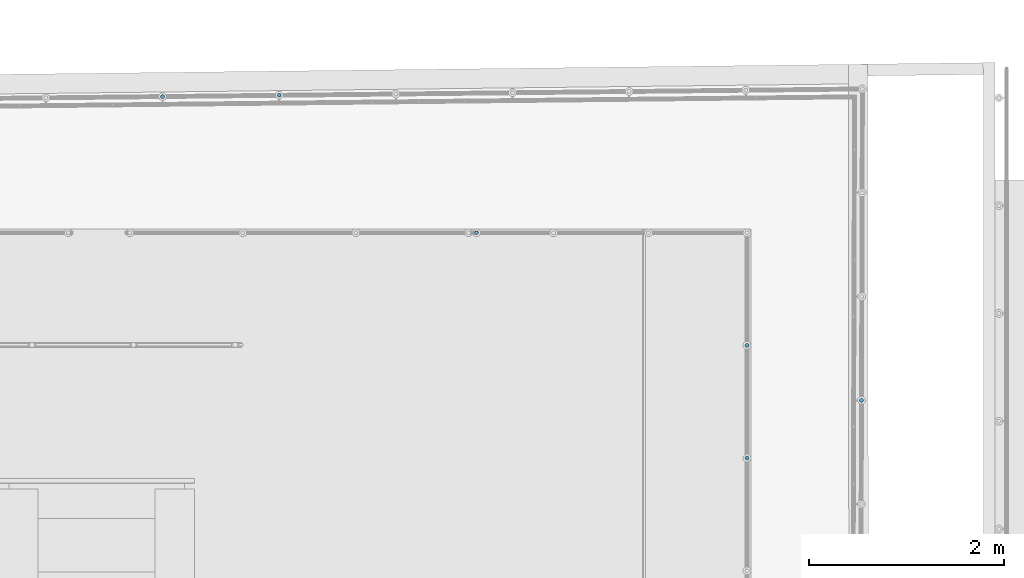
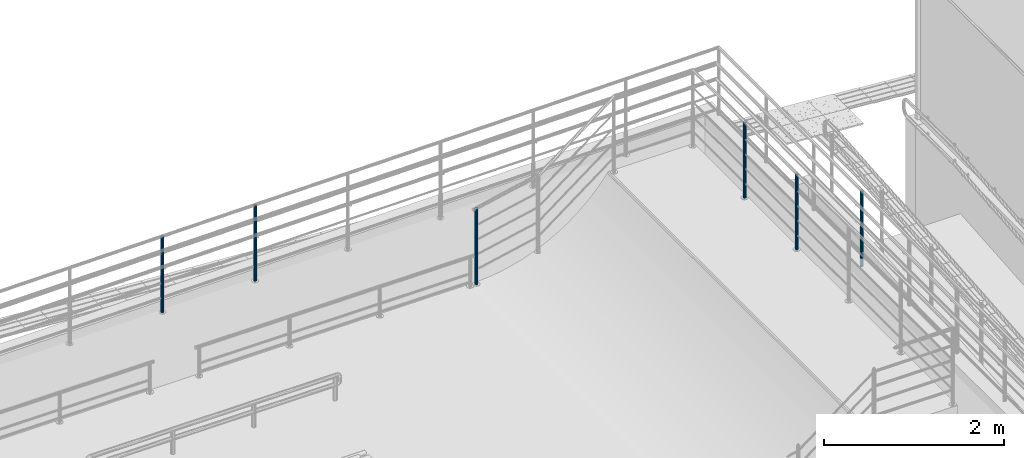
# One storey, part 51 of 237: 6 building element parts, 2 elements without a shape of their own.
"""IFC2X3 building model written with IfcOpenShell, lengths in millimetres."""

from ifc_helpers import new_model, entity, si_unit, converted_unit, derived_unit, money_unit, direction, frame, origin_with_axes, place, context, subcontext, project, spatial, faceted_brep, material, type_object, element, aggregate, save


model = new_model("IFC2X3")

# Units and contexts
model_context = context("Model", 3, precision=0.01, world=origin_with_axes(), true_north=direction((0.0, 1.0)))
body_context = subcontext(model_context, "Body", "Model", "MODEL_VIEW")
ifc_project = project(units=[si_unit("LENGTHUNIT", "METRE", prefix="MILLI"), si_unit("AREAUNIT", "SQUARE_METRE"), si_unit("VOLUMEUNIT", "CUBIC_METRE"), converted_unit("PLANEANGLEUNIT", "DEGREE", entity("IfcPlaneAngleMeasure", 0.0174532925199), si_unit("PLANEANGLEUNIT", "RADIAN"), dimensions=[0, 0, 0, 0, 0, 0, 0]), money_unit("USD"), converted_unit("TIMEUNIT", "Year", entity("IfcTimeMeasure", 31556926.0), si_unit("TIMEUNIT", "SECOND"), dimensions=[0, 0, 1, 0, 0, 0, 0]), si_unit("MASSUNIT", "GRAM", prefix="KILO"), si_unit("THERMODYNAMICTEMPERATUREUNIT", "DEGREE_CELSIUS"), si_unit("LUMINOUSINTENSITYUNIT", "LUMEN"), si_unit("ENERGYUNIT", "JOULE", prefix="MEGA"), derived_unit("THERMALCONDUCTANCEUNIT", [(si_unit("POWERUNIT", "WATT"), 1), (si_unit("LENGTHUNIT", "METRE"), -1), (si_unit("THERMODYNAMICTEMPERATUREUNIT", "KELVIN"), -1)]), derived_unit("SPECIFICHEATCAPACITYUNIT", [(si_unit("ENERGYUNIT", "JOULE"), 1), (si_unit("MASSUNIT", "GRAM", prefix="KILO"), -1), (si_unit("THERMODYNAMICTEMPERATUREUNIT", "KELVIN"), -1)]), derived_unit("MASSDENSITYUNIT", [(si_unit("MASSUNIT", "GRAM", prefix="KILO"), 1), (si_unit("VOLUMEUNIT", "CUBIC_METRE"), -1)])], contexts=[model_context])

# Site, building, storey
site_placement = place(None, origin_with_axes())
site = spatial("IfcSite", under=ifc_project, at=site_placement, Name="Local", CompositionType="ELEMENT")
building_placement = place(site_placement, origin_with_axes())
building = spatial("IfcBuilding", under=site, at=building_placement, Name="Construção", CompositionType="ELEMENT")
storey_placement = place(building_placement, origin_with_axes())
storey = spatial("IfcBuildingStorey", under=building, at=storey_placement, Name="Pavimento Térreo", CompositionType="ELEMENT", Elevation=0.0)

# Railing, building element parts
railing_type = type_object("IfcRailingType", Name="Tipo de Guarda-Corpo", PredefinedType="NOTDEFINED")
railing_1_placement = place(storey_placement, frame((70326.6870103, 28675.2458388, -1357.10819655), z_axis=(0.0, 0.0, 1.0), x_axis=(1.0, 0.0, 0.0)))
railing_1 = element("IfcRailing", 1, at=railing_1_placement, inside=storey, type_object=railing_type, Name="Guarda-Corpo - 004", PredefinedType="NOTDEFINED")
ifc_material = material(Name="Aço - Inoxidável")
building_element_part_1_placement = place(railing_1_placement, origin_with_axes())
building_element_part_1 = element("IfcBuildingElementPart", 2, at=building_element_part_1_placement, material=ifc_material, Name="Aço - Inoxidável", context=body_context, shape_type="Brep", body=[
    faceted_brep([(-4711.74185146, 3459.21272397, 5.0), (-4711.42760915, 3462.68476219, 5.0), (-4711.42760915, 3462.68476219, 1030.0), (-4711.74185146, 3459.21272397, 1030.0), (-4711.721054, 3466.15861995, 5.0), (-4712.65423283, 3455.84800143, 5.0), (-4714.13703102, 3452.69282994, 5.0), (-4716.14519195, 3449.84307779, 5.0), (-4718.61769867, 3447.38533328, 5.0), (-4721.47942531, 3445.39427371, 5.0), (-4724.64341976, 3443.93039642, 5.0), (-4728.01354565, 3443.03818059, 5.0), (-4731.48740341, 3442.74473574, 5.0), (-4734.95944162, 3443.05897805, 5.0), (-4738.32416417, 3443.97135942, 5.0), (-4741.47933566, 3445.45415761, 5.0), (-4744.3290878, 3447.46231854, 5.0), (-4746.78683232, 3449.93482526, 5.0), (-4748.77789189, 3452.7965519, 5.0), (-4750.24176917, 3455.96054635, 5.0), (-4751.133985, 3459.33067224, 5.0), (-4751.42742985, 3462.80452999, 5.0), (-4751.11318754, 3466.27656821, 5.0), (-4750.20080617, 3469.64129076, 5.0), (-4748.71800799, 3472.79646225, 5.0), (-4746.70984706, 3475.64621439, 5.0), (-4744.23734034, 3478.10395891, 5.0), (-4741.37561369, 3480.09501848, 5.0), (-4738.21161924, 3481.55889576, 5.0), (-4734.84149336, 3482.45111159, 5.0), (-4731.3676356, 3482.74455644, 5.0), (-4727.89559739, 3482.43031413, 5.0), (-4724.53087484, 3481.51793276, 5.0), (-4721.37570335, 3480.03513458, 5.0), (-4718.5259512, 3478.02697365, 5.0), (-4716.06820669, 3475.55446693, 5.0), (-4714.07714712, 3472.69274028, 5.0), (-4712.61326983, 3469.52874583, 5.0), (-4711.721054, 3466.15861995, 1030.0), (-4734.95944162, 3443.05897805, 1030.0), (-4731.48740341, 3442.74473574, 1030.0), (-4728.01354565, 3443.03818059, 1030.0), (-4724.64341976, 3443.93039642, 1030.0), (-4721.47942531, 3445.39427371, 1030.0), (-4718.61769867, 3447.38533328, 1030.0), (-4716.14519195, 3449.84307779, 1030.0), (-4714.13703102, 3452.69282994, 1030.0), (-4712.65423283, 3455.84800143, 1030.0), (-4712.61326983, 3469.52874583, 1030.0), (-4714.07714712, 3472.69274028, 1030.0), (-4716.06820669, 3475.55446693, 1030.0), (-4718.5259512, 3478.02697365, 1030.0), (-4721.37570335, 3480.03513458, 1030.0), (-4724.53087484, 3481.51793276, 1030.0), (-4727.89559739, 3482.43031413, 1030.0), (-4731.3676356, 3482.74455644, 1030.0), (-4734.84149336, 3482.45111159, 1030.0), (-4738.21161924, 3481.55889576, 1030.0), (-4741.37561369, 3480.09501848, 1030.0), (-4744.23734034, 3478.10395891, 1030.0), (-4746.70984706, 3475.64621439, 1030.0), (-4748.71800799, 3472.79646225, 1030.0), (-4750.20080617, 3469.64129076, 1030.0), (-4751.11318754, 3466.27656821, 1030.0), (-4751.42742985, 3462.80452999, 1030.0), (-4751.133985, 3459.33067224, 1030.0), (-4750.24176917, 3455.96054635, 1030.0), (-4748.77789189, 3452.7965519, 1030.0), (-4746.78683232, 3449.93482526, 1030.0), (-4744.3290878, 3447.46231854, 1030.0), (-4741.47933566, 3445.45415761, 1030.0), (-4738.32416417, 3443.97135942, 1030.0)], [[[0, 1, 2, 3]], [[4, 1, 0, 5, 6, 7, 8, 9, 10, 11, 12, 13, 14, 15, 16, 17, 18, 19, 20, 21, 22, 23, 24, 25, 26, 27, 28, 29, 30, 31, 32, 33, 34, 35, 36, 37]], [[1, 4, 38, 2]], [[39, 40, 41, 42, 43, 44, 45, 46, 47, 3, 2, 38, 48, 49, 50, 51, 52, 53, 54, 55, 56, 57, 58, 59, 60, 61, 62, 63, 64, 65, 66, 67, 68, 69, 70, 71]], [[5, 0, 3, 47]], [[6, 5, 47, 46]], [[7, 6, 46, 45]], [[8, 7, 45, 44]], [[9, 8, 44, 43]], [[10, 9, 43, 42]], [[11, 10, 42, 41]], [[12, 11, 41, 40]], [[13, 12, 40, 39]], [[14, 13, 39, 71]], [[15, 14, 71, 70]], [[16, 15, 70, 69]], [[17, 16, 69, 68]], [[18, 17, 68, 67]], [[19, 18, 67, 66]], [[20, 19, 66, 65]], [[21, 20, 65, 64]], [[22, 21, 64, 63]], [[23, 22, 63, 62]], [[24, 23, 62, 61]], [[25, 24, 61, 60]], [[26, 25, 60, 59]], [[27, 26, 59, 58]], [[28, 27, 58, 57]], [[29, 28, 57, 56]], [[30, 29, 56, 55]], [[31, 30, 55, 54]], [[32, 31, 54, 53]], [[33, 32, 53, 52]], [[34, 33, 52, 51]], [[35, 34, 51, 50]], [[36, 35, 50, 49]], [[37, 36, 49, 48]], [[4, 37, 48, 38]]]),
])
building_element_part_2_placement = place(railing_1_placement, origin_with_axes())
building_element_part_2 = element("IfcBuildingElementPart", 3, at=building_element_part_2_placement, material=ifc_material, Name="Aço - Inoxidável", context=body_context, shape_type="Brep", body=[
    faceted_brep([(-10691.8058068, 6606.76714188, 5.0), (-10695.2818695, 6607.03319678, 5.0), (-10695.2818695, 6607.03319678, 1030.0), (-10691.8058068, 6606.76714188, 1030.0), (-10698.751323, 6606.69159774, 5.0), (-10688.4287531, 6605.90151699, 5.0), (-10685.2533187, 6604.46262367, 5.0), (-10682.3759875, 6602.49418199, 5.0), (-10679.8841857, 6600.05600203, 5.0), (-10677.8536255, 6597.22216667, 5.0), (-10676.3460045, 6594.07878055, 5.0), (-10675.4071308, 6590.72135388, 5.0), (-10675.0655318, 6587.25190037, 5.0), (-10675.3315867, 6583.7758376, 5.0), (-10676.1972116, 6580.39878398, 5.0), (-10677.6361049, 6577.22334958, 5.0), (-10679.6045466, 6574.34601837, 5.0), (-10682.0427265, 6571.85421659, 5.0), (-10684.8765619, 6569.82365639, 5.0), (-10688.019948, 6568.31603531, 5.0), (-10691.3773747, 6567.37716165, 5.0), (-10694.8468282, 6567.03556261, 5.0), (-10698.3228909, 6567.30161751, 5.0), (-10701.6999446, 6568.16724241, 5.0), (-10704.875379, 6569.60613572, 5.0), (-10707.7527102, 6571.57457741, 5.0), (-10710.2445119, 6574.01275736, 5.0), (-10712.2750722, 6576.84659273, 5.0), (-10713.7826932, 6579.98997884, 5.0), (-10714.7215669, 6583.34740551, 5.0), (-10715.0631659, 6586.81685902, 5.0), (-10714.797111, 6590.29292179, 5.0), (-10713.9314861, 6593.66997541, 5.0), (-10712.4925928, 6596.84540981, 5.0), (-10710.5241511, 6599.72274102, 5.0), (-10708.0859712, 6602.2145428, 5.0), (-10705.2521358, 6604.245103, 5.0), (-10702.1087497, 6605.75272408, 5.0), (-10698.751323, 6606.69159774, 1030.0), (-10675.3315867, 6583.7758376, 1030.0), (-10675.0655318, 6587.25190037, 1030.0), (-10675.4071308, 6590.72135388, 1030.0), (-10676.3460045, 6594.07878055, 1030.0), (-10677.8536255, 6597.22216667, 1030.0), (-10679.8841857, 6600.05600203, 1030.0), (-10682.3759875, 6602.49418199, 1030.0), (-10685.2533187, 6604.46262367, 1030.0), (-10688.4287531, 6605.90151699, 1030.0), (-10702.1087497, 6605.75272408, 1030.0), (-10705.2521358, 6604.245103, 1030.0), (-10708.0859712, 6602.2145428, 1030.0), (-10710.5241511, 6599.72274102, 1030.0), (-10712.4925928, 6596.84540981, 1030.0), (-10713.9314861, 6593.66997541, 1030.0), (-10714.797111, 6590.29292179, 1030.0), (-10715.0631659, 6586.81685902, 1030.0), (-10714.7215669, 6583.34740551, 1030.0), (-10713.7826932, 6579.98997884, 1030.0), (-10712.2750722, 6576.84659273, 1030.0), (-10710.2445119, 6574.01275736, 1030.0), (-10707.7527102, 6571.57457741, 1030.0), (-10704.875379, 6569.60613572, 1030.0), (-10701.6999446, 6568.16724241, 1030.0), (-10698.3228909, 6567.30161751, 1030.0), (-10694.8468282, 6567.03556261, 1030.0), (-10691.3773747, 6567.37716165, 1030.0), (-10688.019948, 6568.31603531, 1030.0), (-10684.8765619, 6569.82365639, 1030.0), (-10682.0427265, 6571.85421659, 1030.0), (-10679.6045466, 6574.34601837, 1030.0), (-10677.6361049, 6577.22334958, 1030.0), (-10676.1972116, 6580.39878398, 1030.0)], [[[0, 1, 2, 3]], [[4, 1, 0, 5, 6, 7, 8, 9, 10, 11, 12, 13, 14, 15, 16, 17, 18, 19, 20, 21, 22, 23, 24, 25, 26, 27, 28, 29, 30, 31, 32, 33, 34, 35, 36, 37]], [[1, 4, 38, 2]], [[39, 40, 41, 42, 43, 44, 45, 46, 47, 3, 2, 38, 48, 49, 50, 51, 52, 53, 54, 55, 56, 57, 58, 59, 60, 61, 62, 63, 64, 65, 66, 67, 68, 69, 70, 71]], [[5, 0, 3, 47]], [[6, 5, 47, 46]], [[7, 6, 46, 45]], [[8, 7, 45, 44]], [[9, 8, 44, 43]], [[10, 9, 43, 42]], [[11, 10, 42, 41]], [[12, 11, 41, 40]], [[13, 12, 40, 39]], [[14, 13, 39, 71]], [[15, 14, 71, 70]], [[16, 15, 70, 69]], [[17, 16, 69, 68]], [[18, 17, 68, 67]], [[19, 18, 67, 66]], [[20, 19, 66, 65]], [[21, 20, 65, 64]], [[22, 21, 64, 63]], [[23, 22, 63, 62]], [[24, 23, 62, 61]], [[25, 24, 61, 60]], [[26, 25, 60, 59]], [[27, 26, 59, 58]], [[28, 27, 58, 57]], [[29, 28, 57, 56]], [[30, 29, 56, 55]], [[31, 30, 55, 54]], [[32, 31, 54, 53]], [[33, 32, 53, 52]], [[34, 33, 52, 51]], [[35, 34, 51, 50]], [[36, 35, 50, 49]], [[37, 36, 49, 48]], [[4, 37, 48, 38]]]),
])
building_element_part_3_placement = place(railing_1_placement, origin_with_axes())
building_element_part_3 = element("IfcBuildingElementPart", 4, at=building_element_part_3_placement, material=ifc_material, Name="Aço - Inoxidável", context=body_context, shape_type="Brep", body=[
    faceted_brep([(-11886.4430334, 6593.77345867, 5.0), (-11889.9190962, 6594.03951357, 5.0), (-11889.9190962, 6594.03951357, 1030.0), (-11886.4430334, 6593.77345867, 1030.0), (-11893.3885497, 6593.69791453, 5.0), (-11883.0659798, 6592.90783378, 5.0), (-11879.8905454, 6591.46894046, 5.0), (-11877.0132142, 6589.50049878, 5.0), (-11874.5214124, 6587.06231882, 5.0), (-11872.4908522, 6584.22848346, 5.0), (-11870.9832311, 6581.08509734, 5.0), (-11870.0443575, 6577.72767067, 5.0), (-11869.7027584, 6574.25821716, 5.0), (-11869.9688133, 6570.78215439, 5.0), (-11870.8344382, 6567.40510077, 5.0), (-11872.2733316, 6564.22966637, 5.0), (-11874.2417732, 6561.35233516, 5.0), (-11876.6799532, 6558.86053338, 5.0), (-11879.5137886, 6556.82997318, 5.0), (-11882.6571747, 6555.3223521, 5.0), (-11886.0146013, 6554.38347844, 5.0), (-11889.4840549, 6554.0418794, 5.0), (-11892.9601176, 6554.3079343, 5.0), (-11896.3371712, 6555.1735592, 5.0), (-11899.5126056, 6556.61245251, 5.0), (-11902.3899369, 6558.5808942, 5.0), (-11904.8817386, 6561.01907415, 5.0), (-11906.9122988, 6563.85290952, 5.0), (-11908.4199199, 6566.99629563, 5.0), (-11909.3587936, 6570.3537223, 5.0), (-11909.7003926, 6573.82317581, 5.0), (-11909.4343377, 6577.29923858, 5.0), (-11908.5687128, 6580.6762922, 5.0), (-11907.1298195, 6583.8517266, 5.0), (-11905.1613778, 6586.72905781, 5.0), (-11902.7231979, 6589.22085959, 5.0), (-11899.8893625, 6591.25141979, 5.0), (-11896.7459764, 6592.75904087, 5.0), (-11893.3885497, 6593.69791453, 1030.0), (-11869.9688133, 6570.78215439, 1030.0), (-11869.7027584, 6574.25821716, 1030.0), (-11870.0443575, 6577.72767067, 1030.0), (-11870.9832311, 6581.08509734, 1030.0), (-11872.4908522, 6584.22848346, 1030.0), (-11874.5214124, 6587.06231882, 1030.0), (-11877.0132142, 6589.50049878, 1030.0), (-11879.8905454, 6591.46894046, 1030.0), (-11883.0659798, 6592.90783378, 1030.0), (-11896.7459764, 6592.75904087, 1030.0), (-11899.8893625, 6591.25141979, 1030.0), (-11902.7231979, 6589.22085959, 1030.0), (-11905.1613778, 6586.72905781, 1030.0), (-11907.1298195, 6583.8517266, 1030.0), (-11908.5687128, 6580.6762922, 1030.0), (-11909.4343377, 6577.29923858, 1030.0), (-11909.7003926, 6573.82317581, 1030.0), (-11909.3587936, 6570.3537223, 1030.0), (-11908.4199199, 6566.99629563, 1030.0), (-11906.9122988, 6563.85290952, 1030.0), (-11904.8817386, 6561.01907415, 1030.0), (-11902.3899369, 6558.5808942, 1030.0), (-11899.5126056, 6556.61245251, 1030.0), (-11896.3371712, 6555.1735592, 1030.0), (-11892.9601176, 6554.3079343, 1030.0), (-11889.4840549, 6554.0418794, 1030.0), (-11886.0146013, 6554.38347844, 1030.0), (-11882.6571747, 6555.3223521, 1030.0), (-11879.5137886, 6556.82997318, 1030.0), (-11876.6799532, 6558.86053338, 1030.0), (-11874.2417732, 6561.35233516, 1030.0), (-11872.2733316, 6564.22966637, 1030.0), (-11870.8344382, 6567.40510077, 1030.0)], [[[0, 1, 2, 3]], [[4, 1, 0, 5, 6, 7, 8, 9, 10, 11, 12, 13, 14, 15, 16, 17, 18, 19, 20, 21, 22, 23, 24, 25, 26, 27, 28, 29, 30, 31, 32, 33, 34, 35, 36, 37]], [[1, 4, 38, 2]], [[39, 40, 41, 42, 43, 44, 45, 46, 47, 3, 2, 38, 48, 49, 50, 51, 52, 53, 54, 55, 56, 57, 58, 59, 60, 61, 62, 63, 64, 65, 66, 67, 68, 69, 70, 71]], [[5, 0, 3, 47]], [[6, 5, 47, 46]], [[7, 6, 46, 45]], [[8, 7, 45, 44]], [[9, 8, 44, 43]], [[10, 9, 43, 42]], [[11, 10, 42, 41]], [[12, 11, 41, 40]], [[13, 12, 40, 39]], [[14, 13, 39, 71]], [[15, 14, 71, 70]], [[16, 15, 70, 69]], [[17, 16, 69, 68]], [[18, 17, 68, 67]], [[19, 18, 67, 66]], [[20, 19, 66, 65]], [[21, 20, 65, 64]], [[22, 21, 64, 63]], [[23, 22, 63, 62]], [[24, 23, 62, 61]], [[25, 24, 61, 60]], [[26, 25, 60, 59]], [[27, 26, 59, 58]], [[28, 27, 58, 57]], [[29, 28, 57, 56]], [[30, 29, 56, 55]], [[31, 30, 55, 54]], [[32, 31, 54, 53]], [[33, 32, 53, 52]], [[34, 33, 52, 51]], [[35, 34, 51, 50]], [[36, 35, 50, 49]], [[37, 36, 49, 48]], [[4, 37, 48, 38]]]),
])
aggregate(railing_1, [building_element_part_1, building_element_part_2, building_element_part_3])

railing_2_placement = place(storey_placement, frame((61612.4440926, 28006.4497128, -1265.99547451), z_axis=(0.0, 0.0, 1.0), x_axis=(-1.0, 0.0, 0.0)))
railing_2 = element("IfcRailing", 5, at=railing_2_placement, inside=storey, type_object=railing_type, Name="Guarda-Corpo - 001", PredefinedType="NOTDEFINED")
building_element_part_4_placement = place(railing_2_placement, origin_with_axes())
building_element_part_4 = element("IfcBuildingElementPart", 6, at=building_element_part_4_placement, material=ifc_material, Name="Aço - Inoxidável", context=body_context, shape_type="Brep", body=[
    faceted_brep([(-43.4615863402, -5867.93545203, 13.4432905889), (-39.9887934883, -5868.24124182, 13.4432905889), (-39.9887934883, -5868.24124182, 1038.44329059), (-43.4615863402, -5867.93545203, 1039.1763716), (-36.5156603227, -5867.93934183, 13.4432905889), (-46.8285198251, -5867.03126372, 13.4432905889), (-49.9872913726, -5865.55615019, 13.4432905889), (-52.8419233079, -5863.55493204, 13.4432905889), (-55.3056790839, -5861.08841525, 13.4432905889), (-57.3036987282, -5858.23154369, 13.4432905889), (-58.775273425, -5855.07112197, 13.4432905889), (-59.6756901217, -5851.70317788, 13.4432905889), (-59.9775901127, -5848.23004472, 13.4432905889), (-59.6718003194, -5844.75725186, 13.4432905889), (-58.76761201, -5841.39031838, 13.4432905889), (-57.2924984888, -5838.23154683, 13.4432905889), (-55.2912803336, -5835.3769149, 13.4432905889), (-52.8247635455, -5832.91315912, 13.4432905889), (-49.9678919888, -5830.91513948, 13.4432905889), (-46.8074702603, -5829.44356478, 13.4432905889), (-43.4395261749, -5828.54314808, 13.4432905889), (-39.9663930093, -5828.24124809, 13.4432905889), (-36.4936001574, -5828.54703788, 13.4432905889), (-33.1266666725, -5829.45122619, 13.4432905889), (-29.967895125, -5830.92633971, 13.4432905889), (-27.1132631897, -5832.92755787, 13.4432905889), (-24.6495074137, -5835.39407466, 13.4432905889), (-22.6514877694, -5838.25094621, 13.4432905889), (-21.1799130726, -5841.41136794, 13.4432905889), (-20.2794963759, -5844.77931203, 13.4432905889), (-19.9775963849, -5848.25244519, 13.4432905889), (-20.2833861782, -5851.72523805, 13.4432905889), (-21.1875744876, -5855.09217153, 13.4432905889), (-22.6626880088, -5858.25094308, 13.4432905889), (-24.663906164, -5861.10557501, 13.4432905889), (-27.1304229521, -5863.56933079, 13.4432905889), (-29.9872945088, -5865.56735043, 13.4432905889), (-33.1477162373, -5867.03892513, 13.4432905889), (-36.5156603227, -5867.93934183, 1037.71020958), (-59.6718003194, -5844.75725186, 1042.60079961), (-59.9775901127, -5848.23004472, 1042.66493588), (-59.6756901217, -5851.70317788, 1042.60079961), (-58.775273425, -5855.07112197, 1042.41033952), (-57.3036987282, -5858.23154369, 1042.09934266), (-55.3056790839, -5861.08841525, 1041.67725851), (-52.8419233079, -5863.55493204, 1041.15691188), (-49.9872913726, -5865.55615019, 1040.55411324), (-46.8285198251, -5867.03126372, 1039.88717832), (-33.1477162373, -5867.03892513, 1036.99940286), (-29.9872945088, -5865.56735043, 1036.33246794), (-27.1304229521, -5863.56933079, 1035.7296693), (-24.663906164, -5861.10557501, 1035.20932267), (-22.6626880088, -5858.25094308, 1034.78723852), (-21.1875744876, -5855.09217153, 1034.47624166), (-20.2833861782, -5851.72523805, 1034.28578157), (-19.9775963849, -5848.25244519, 1034.22164529), (-20.2794963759, -5844.77931203, 1034.28578157), (-21.1799130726, -5841.41136794, 1034.47624166), (-22.6514877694, -5838.25094621, 1034.78723852), (-24.6495074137, -5835.39407466, 1035.20932267), (-27.1132631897, -5832.92755787, 1035.7296693), (-29.967895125, -5830.92633971, 1036.33246794), (-33.1266666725, -5829.45122619, 1036.99940286), (-36.4936001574, -5828.54703788, 1037.71020958), (-39.9663930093, -5828.24124809, 1038.44329059), (-43.4395261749, -5828.54314808, 1039.1763716), (-46.8074702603, -5829.44356478, 1039.88717832), (-49.9678919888, -5830.91513948, 1040.55411324), (-52.8247635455, -5832.91315912, 1041.15691188), (-55.2912803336, -5835.3769149, 1041.67725851), (-57.2924984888, -5838.23154683, 1042.09934266), (-58.76761201, -5841.39031838, 1042.41033952)], [[[0, 1, 2, 3]], [[4, 1, 0, 5, 6, 7, 8, 9, 10, 11, 12, 13, 14, 15, 16, 17, 18, 19, 20, 21, 22, 23, 24, 25, 26, 27, 28, 29, 30, 31, 32, 33, 34, 35, 36, 37]], [[1, 4, 38, 2]], [[39, 40, 41, 42, 43, 44, 45, 46, 47, 3, 2, 38, 48, 49, 50, 51, 52, 53, 54, 55, 56, 57, 58, 59, 60, 61, 62, 63, 64, 65, 66, 67, 68, 69, 70, 71]], [[5, 0, 3, 47]], [[6, 5, 47, 46]], [[7, 6, 46, 45]], [[8, 7, 45, 44]], [[9, 8, 44, 43]], [[10, 9, 43, 42]], [[11, 10, 42, 41]], [[12, 11, 41, 40]], [[13, 12, 40, 39]], [[14, 13, 39, 71]], [[15, 14, 71, 70]], [[16, 15, 70, 69]], [[17, 16, 69, 68]], [[18, 17, 68, 67]], [[19, 18, 67, 66]], [[20, 19, 66, 65]], [[21, 20, 65, 64]], [[22, 21, 64, 63]], [[23, 22, 63, 62]], [[24, 23, 62, 61]], [[25, 24, 61, 60]], [[26, 25, 60, 59]], [[27, 26, 59, 58]], [[28, 27, 58, 57]], [[29, 28, 57, 56]], [[30, 29, 56, 55]], [[31, 30, 55, 54]], [[32, 31, 54, 53]], [[33, 32, 53, 52]], [[34, 33, 52, 51]], [[35, 34, 51, 50]], [[36, 35, 50, 49]], [[37, 36, 49, 48]], [[4, 37, 48, 38]]]),
])
building_element_part_5_placement = place(railing_2_placement, origin_with_axes())
building_element_part_5 = element("IfcBuildingElementPart", 7, at=building_element_part_5_placement, material=ifc_material, Name="Aço - Inoxidável", context=body_context, shape_type="Brep", body=[
    faceted_brep([(-2829.69623245, -3537.00929341, 913.887277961), (-2830.00007728, -3540.48225697, 913.887277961), (-2830.00007728, -3540.48225697, 1938.88727796), (-2829.69623245, -3537.00929341, 1938.88727796), (-2829.69623222, -3543.95522051, 913.887277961), (-2828.79392992, -3533.64185406, 913.887277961), (-2827.32058568, -3530.48225688, 913.887277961), (-2825.32096656, -3527.62650462, 913.887277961), (-2822.85582997, -3525.16136787, 913.887277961), (-2820.00007785, -3523.16174856, 913.887277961), (-2816.84048076, -3521.68840412, 913.887277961), (-2813.47304148, -3520.78610137, 913.887277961), (-2810.00007793, -3520.48225631, 913.887277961), (-2806.52711437, -3520.78610114, 913.887277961), (-2803.15967503, -3521.68840367, 913.887277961), (-2800.00007785, -3523.16174791, 913.887277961), (-2797.14432559, -3525.16136703, 913.887277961), (-2794.67918884, -3527.62650361, 913.887277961), (-2792.67956953, -3530.48225574, 913.887277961), (-2791.20622508, -3533.64185283, 913.887277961), (-2790.30392233, -3537.00929211, 913.887277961), (-2790.00007728, -3540.48225565, 913.887277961), (-2790.3039221, -3543.95521922, 913.887277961), (-2791.20622463, -3547.32265856, 913.887277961), (-2792.67956887, -3550.48225574, 913.887277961), (-2794.67918799, -3553.338008, 913.887277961), (-2797.14432458, -3555.80314475, 913.887277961), (-2800.00007671, -3557.80276406, 913.887277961), (-2803.15967379, -3559.2761085, 913.887277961), (-2806.52711307, -3560.17841126, 913.887277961), (-2810.00007662, -3560.48225631, 913.887277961), (-2813.47304018, -3560.17841149, 913.887277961), (-2816.84047952, -3559.27610895, 913.887277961), (-2820.00007671, -3557.80276472, 913.887277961), (-2822.85582897, -3555.8031456, 913.887277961), (-2825.32096571, -3553.33800901, 913.887277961), (-2827.32058502, -3550.48225688, 913.887277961), (-2828.79392947, -3547.3226598, 913.887277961), (-2829.69623222, -3543.95522051, 1938.88727796), (-2806.52711437, -3520.78610114, 1938.88727796), (-2810.00007793, -3520.48225631, 1938.88727796), (-2813.47304148, -3520.78610137, 1938.88727796), (-2816.84048076, -3521.68840412, 1938.88727796), (-2820.00007785, -3523.16174856, 1938.88727796), (-2822.85582997, -3525.16136787, 1938.88727796), (-2825.32096656, -3527.62650462, 1938.88727796), (-2827.32058568, -3530.48225688, 1938.88727796), (-2828.79392992, -3533.64185406, 1938.88727796), (-2828.79392947, -3547.3226598, 1938.88727796), (-2827.32058502, -3550.48225688, 1938.88727796), (-2825.32096571, -3553.33800901, 1938.88727796), (-2822.85582897, -3555.8031456, 1938.88727796), (-2820.00007671, -3557.80276472, 1938.88727796), (-2816.84047952, -3559.27610895, 1938.88727796), (-2813.47304018, -3560.17841149, 1938.88727796), (-2810.00007662, -3560.48225631, 1938.88727796), (-2806.52711307, -3560.17841126, 1938.88727796), (-2803.15967379, -3559.2761085, 1938.88727796), (-2800.00007671, -3557.80276406, 1938.88727796), (-2797.14432458, -3555.80314475, 1938.88727796), (-2794.67918799, -3553.338008, 1938.88727796), (-2792.67956887, -3550.48225574, 1938.88727796), (-2791.20622463, -3547.32265856, 1938.88727796), (-2790.3039221, -3543.95521922, 1938.88727796), (-2790.00007728, -3540.48225565, 1938.88727796), (-2790.30392233, -3537.00929211, 1938.88727796), (-2791.20622508, -3533.64185283, 1938.88727796), (-2792.67956953, -3530.48225574, 1938.88727796), (-2794.67918884, -3527.62650361, 1938.88727796), (-2797.14432559, -3525.16136703, 1938.88727796), (-2800.00007785, -3523.16174791, 1938.88727796), (-2803.15967503, -3521.68840367, 1938.88727796)], [[[0, 1, 2, 3]], [[4, 1, 0, 5, 6, 7, 8, 9, 10, 11, 12, 13, 14, 15, 16, 17, 18, 19, 20, 21, 22, 23, 24, 25, 26, 27, 28, 29, 30, 31, 32, 33, 34, 35, 36, 37]], [[1, 4, 38, 2]], [[39, 40, 41, 42, 43, 44, 45, 46, 47, 3, 2, 38, 48, 49, 50, 51, 52, 53, 54, 55, 56, 57, 58, 59, 60, 61, 62, 63, 64, 65, 66, 67, 68, 69, 70, 71]], [[5, 0, 3, 47]], [[6, 5, 47, 46]], [[7, 6, 46, 45]], [[8, 7, 45, 44]], [[9, 8, 44, 43]], [[10, 9, 43, 42]], [[11, 10, 42, 41]], [[12, 11, 41, 40]], [[13, 12, 40, 39]], [[14, 13, 39, 71]], [[15, 14, 71, 70]], [[16, 15, 70, 69]], [[17, 16, 69, 68]], [[18, 17, 68, 67]], [[19, 18, 67, 66]], [[20, 19, 66, 65]], [[21, 20, 65, 64]], [[22, 21, 64, 63]], [[23, 22, 63, 62]], [[24, 23, 62, 61]], [[25, 24, 61, 60]], [[26, 25, 60, 59]], [[27, 26, 59, 58]], [[28, 27, 58, 57]], [[29, 28, 57, 56]], [[30, 29, 56, 55]], [[31, 30, 55, 54]], [[32, 31, 54, 53]], [[33, 32, 53, 52]], [[34, 33, 52, 51]], [[35, 34, 51, 50]], [[36, 35, 50, 49]], [[37, 36, 49, 48]], [[4, 37, 48, 38]]]),
])
building_element_part_6_placement = place(railing_2_placement, origin_with_axes())
building_element_part_6 = element("IfcBuildingElementPart", 8, at=building_element_part_6_placement, material=ifc_material, Name="Aço - Inoxidável", context=body_context, shape_type="Brep", body=[
    faceted_brep([(-2829.69619447, -4691.00786514, 913.887277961), (-2830.0000393, -4694.4808287, 913.887277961), (-2830.0000393, -4694.4808287, 1938.88727796), (-2829.69619447, -4691.00786514, 1938.88727796), (-2829.69619424, -4697.95379224, 913.887277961), (-2828.79389194, -4687.64042579, 913.887277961), (-2827.3205477, -4684.48082861, 913.887277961), (-2825.32092858, -4681.62507635, 913.887277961), (-2822.85579199, -4679.1599396, 913.887277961), (-2820.00003987, -4677.16032029, 913.887277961), (-2816.84044278, -4675.68697585, 913.887277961), (-2813.4730035, -4674.78467309, 913.887277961), (-2810.00003995, -4674.48082804, 913.887277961), (-2806.52707639, -4674.78467287, 913.887277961), (-2803.15963705, -4675.6869754, 913.887277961), (-2800.00003987, -4677.16031964, 913.887277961), (-2797.14428761, -4679.15993876, 913.887277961), (-2794.67915086, -4681.62507534, 913.887277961), (-2792.67953155, -4684.48082747, 913.887277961), (-2791.20618711, -4687.64042456, 913.887277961), (-2790.30388435, -4691.00786384, 913.887277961), (-2790.0000393, -4694.48082738, 913.887277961), (-2790.30388412, -4697.95379095, 913.887277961), (-2791.20618666, -4701.32123029, 913.887277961), (-2792.67953089, -4704.48082747, 913.887277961), (-2794.67915001, -4707.33657973, 913.887277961), (-2797.1442866, -4709.80171648, 913.887277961), (-2800.00003873, -4711.80133579, 913.887277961), (-2803.15963581, -4713.27468023, 913.887277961), (-2806.52707509, -4714.17698299, 913.887277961), (-2810.00003864, -4714.48082804, 913.887277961), (-2813.4730022, -4714.17698322, 913.887277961), (-2816.84044154, -4713.27468068, 913.887277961), (-2820.00003873, -4711.80133645, 913.887277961), (-2822.85579099, -4709.80171733, 913.887277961), (-2825.32092774, -4707.33658074, 913.887277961), (-2827.32054704, -4704.48082861, 913.887277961), (-2828.79389149, -4701.32123153, 913.887277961), (-2829.69619424, -4697.95379224, 1938.88727796), (-2806.52707639, -4674.78467287, 1938.88727796), (-2810.00003995, -4674.48082804, 1938.88727796), (-2813.4730035, -4674.78467309, 1938.88727796), (-2816.84044278, -4675.68697585, 1938.88727796), (-2820.00003987, -4677.16032029, 1938.88727796), (-2822.85579199, -4679.1599396, 1938.88727796), (-2825.32092858, -4681.62507635, 1938.88727796), (-2827.3205477, -4684.48082861, 1938.88727796), (-2828.79389194, -4687.64042579, 1938.88727796), (-2828.79389149, -4701.32123153, 1938.88727796), (-2827.32054704, -4704.48082861, 1938.88727796), (-2825.32092774, -4707.33658074, 1938.88727796), (-2822.85579099, -4709.80171733, 1938.88727796), (-2820.00003873, -4711.80133645, 1938.88727796), (-2816.84044154, -4713.27468068, 1938.88727796), (-2813.4730022, -4714.17698322, 1938.88727796), (-2810.00003864, -4714.48082804, 1938.88727796), (-2806.52707509, -4714.17698299, 1938.88727796), (-2803.15963581, -4713.27468023, 1938.88727796), (-2800.00003873, -4711.80133579, 1938.88727796), (-2797.1442866, -4709.80171648, 1938.88727796), (-2794.67915001, -4707.33657973, 1938.88727796), (-2792.67953089, -4704.48082747, 1938.88727796), (-2791.20618666, -4701.32123029, 1938.88727796), (-2790.30388412, -4697.95379095, 1938.88727796), (-2790.0000393, -4694.48082738, 1938.88727796), (-2790.30388435, -4691.00786384, 1938.88727796), (-2791.20618711, -4687.64042456, 1938.88727796), (-2792.67953155, -4684.48082747, 1938.88727796), (-2794.67915086, -4681.62507534, 1938.88727796), (-2797.14428761, -4679.15993876, 1938.88727796), (-2800.00003987, -4677.16031964, 1938.88727796), (-2803.15963705, -4675.6869754, 1938.88727796)], [[[0, 1, 2, 3]], [[4, 1, 0, 5, 6, 7, 8, 9, 10, 11, 12, 13, 14, 15, 16, 17, 18, 19, 20, 21, 22, 23, 24, 25, 26, 27, 28, 29, 30, 31, 32, 33, 34, 35, 36, 37]], [[1, 4, 38, 2]], [[39, 40, 41, 42, 43, 44, 45, 46, 47, 3, 2, 38, 48, 49, 50, 51, 52, 53, 54, 55, 56, 57, 58, 59, 60, 61, 62, 63, 64, 65, 66, 67, 68, 69, 70, 71]], [[5, 0, 3, 47]], [[6, 5, 47, 46]], [[7, 6, 46, 45]], [[8, 7, 45, 44]], [[9, 8, 44, 43]], [[10, 9, 43, 42]], [[11, 10, 42, 41]], [[12, 11, 41, 40]], [[13, 12, 40, 39]], [[14, 13, 39, 71]], [[15, 14, 71, 70]], [[16, 15, 70, 69]], [[17, 16, 69, 68]], [[18, 17, 68, 67]], [[19, 18, 67, 66]], [[20, 19, 66, 65]], [[21, 20, 65, 64]], [[22, 21, 64, 63]], [[23, 22, 63, 62]], [[24, 23, 62, 61]], [[25, 24, 61, 60]], [[26, 25, 60, 59]], [[27, 26, 59, 58]], [[28, 27, 58, 57]], [[29, 28, 57, 56]], [[30, 29, 56, 55]], [[31, 30, 55, 54]], [[32, 31, 54, 53]], [[33, 32, 53, 52]], [[34, 33, 52, 51]], [[35, 34, 51, 50]], [[36, 35, 50, 49]], [[37, 36, 49, 48]], [[4, 37, 48, 38]]]),
])
aggregate(railing_2, [building_element_part_4, building_element_part_5, building_element_part_6])

save(model, "model.ifc")
